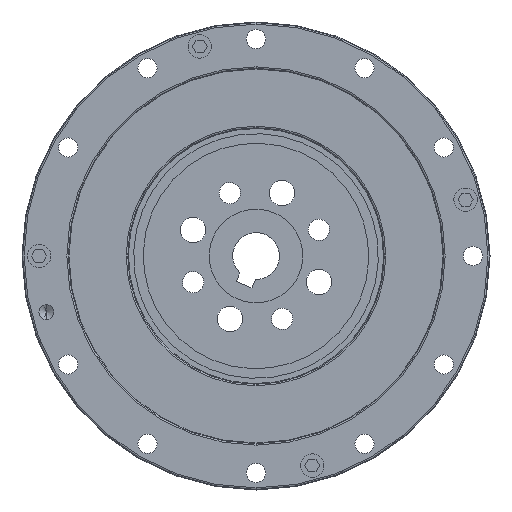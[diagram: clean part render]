
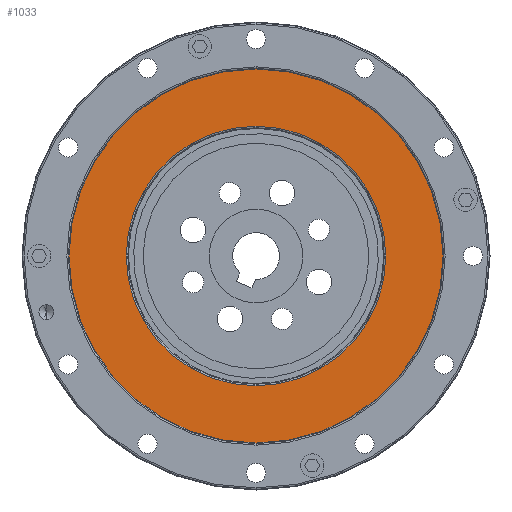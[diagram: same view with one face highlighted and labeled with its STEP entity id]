
A CAD part, left-side view. The second image highlights one B-rep face of the part: STEP entity #1033.
In plain terms, the highlighted planar face has unit normal (-1, 0, 0).
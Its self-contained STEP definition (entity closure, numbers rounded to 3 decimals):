
#1033=ADVANCED_FACE('',(#2405,#2406),#1425,.T.);
#1425=PLANE('',#6874);
#2405=FACE_BOUND('',#2604,.T.);
#2406=FACE_BOUND('',#2605,.T.);
#2604=EDGE_LOOP('',(#3224,#3225));
#2605=EDGE_LOOP('',(#3226,#3227));
#3224=ORIENTED_EDGE('',*,*,#5532,.T.);
#3225=ORIENTED_EDGE('',*,*,#5533,.T.);
#3226=ORIENTED_EDGE('',*,*,#5534,.T.);
#3227=ORIENTED_EDGE('',*,*,#5531,.T.);
#4920=VERTEX_POINT('',#10018);
#4921=VERTEX_POINT('',#10020);
#4922=VERTEX_POINT('',#10024);
#4923=VERTEX_POINT('',#10025);
#5531=EDGE_CURVE('',#4920,#4921,#6380,.T.);
#5532=EDGE_CURVE('',#4922,#4923,#6381,.T.);
#5533=EDGE_CURVE('',#4923,#4922,#6382,.T.);
#5534=EDGE_CURVE('',#4921,#4920,#6383,.T.);
#6380=CIRCLE('',#6869,30.5);
#6381=CIRCLE('',#6871,43.962);
#6382=CIRCLE('',#6872,43.962);
#6383=CIRCLE('',#6873,30.5);
#6869=AXIS2_PLACEMENT_3D('',#10021,#7845,#7846);
#6871=AXIS2_PLACEMENT_3D('',#10023,#7849,#7850);
#6872=AXIS2_PLACEMENT_3D('',#10026,#7851,#7852);
#6873=AXIS2_PLACEMENT_3D('',#10027,#7853,#7854);
#6874=AXIS2_PLACEMENT_3D('',#10028,#7855,#7856);
#7845=DIRECTION('',(1.,0.,0.));
#7846=DIRECTION('',(0.,0.,-1.));
#7849=DIRECTION('',(-1.,0.,0.));
#7850=DIRECTION('',(0.,0.,1.));
#7851=DIRECTION('',(-1.,0.,0.));
#7852=DIRECTION('',(0.,0.,-1.));
#7853=DIRECTION('',(1.,0.,0.));
#7854=DIRECTION('',(0.,0.,1.));
#7855=DIRECTION('',(-1.,0.,0.));
#7856=DIRECTION('',(0.,0.,-1.));
#10018=CARTESIAN_POINT('',(2.8,0.,-30.5));
#10020=CARTESIAN_POINT('',(2.8,0.,30.5));
#10021=CARTESIAN_POINT('',(2.8,0.,0.));
#10023=CARTESIAN_POINT('',(2.8,0.,0.));
#10024=CARTESIAN_POINT('',(2.8,0.,43.962));
#10025=CARTESIAN_POINT('',(2.8,0.,-43.962));
#10026=CARTESIAN_POINT('',(2.8,0.,0.));
#10027=CARTESIAN_POINT('',(2.8,0.,0.));
#10028=CARTESIAN_POINT('',(2.8,43.962,0.));
